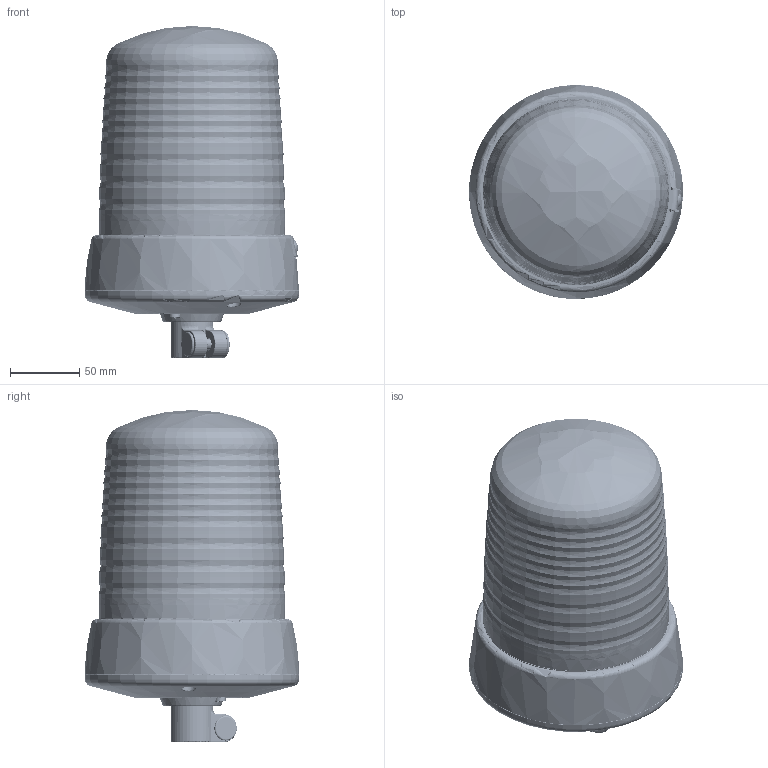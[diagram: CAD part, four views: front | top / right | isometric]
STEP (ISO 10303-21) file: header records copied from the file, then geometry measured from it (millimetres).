
FILE_DESCRIPTION(('CATIA V5 STEP Exchange','CAx-IF Rec.Pracs.--- Model Styling and Organization---1.5--- 2016-08-15','CAx-IF Rec.Pracs.---Supplemental Geometry---1.0---2011-11-01','CAx-IF Rec.Pracs.--- Composite Materials ---1.1---2010-07-15'),'2;1');
FILE_NAME('E:\tmp\ddx\2011221\HELLA_3D_data_KL_7000_pipe_socket_2RL-008-063-10.stp','2022-01-18T07:48:44+00:00',('none'),('none'),'CATIA Version 5-6 Release 2020 SP3 HF9','CATIA V5 STEP AP214 Edition 3 v2','none');
FILE_SCHEMA(('AUTOMOTIVE_DESIGN { 1 0 10303 214 3 1 1 1 }'));
Length unit declared in the file: millimetre
Products named in the file (1): 10000609300_D10_001
Bounding box: 155 x 155 x 240.52 mm (x, y, z)
Volume: 608567.4 mm3; surface area: 448167.8 mm2
Topology: 71 solids, 84 shells, 6708 faces, 17410 edges, 10815 vertices
Faces by surface type: plane 2620, cylinder 1933, bspline 980, torus 683, cone 308, sphere 160, revolution 24
Entity records: 295472 total; most frequent: CARTESIAN_POINT 147749, ORIENTED_EDGE 34620, DIRECTION 23297, EDGE_CURVE 17334, VERTEX_POINT 10815, AXIS2_PLACEMENT_3D 9703, VECTOR 7900, LINE 7900
